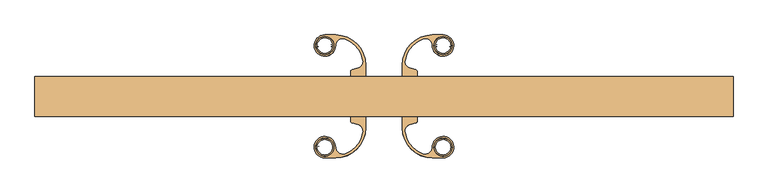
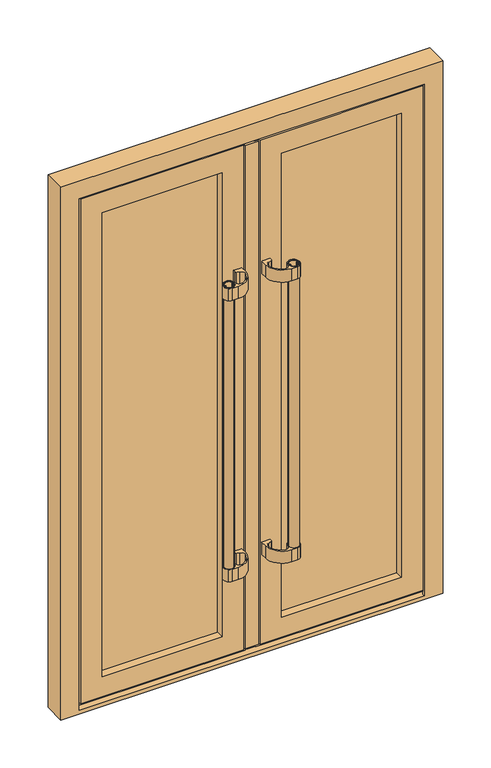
"""IFC4 building model written with IfcOpenShell, lengths in millimetres: door geometry, Dvokrilna vrata_ : Dvokrilna vrata_."""

from ifc_helpers import new_model, si_unit, point, frame, frame_2d, origin, place, context, project, spatial, polyline, circle_curve, trimmed, segment, composite_curve, outline, extrude, faceted_brep, source, transform, mapped, element, save
from ifc_brep_helpers import plane_surface, cylinder_surface, advanced_brep


def door_72d245ee(model_context):
    return source(origin(), model_context, "Body", "SolidModel", [
        extrude(outline(composite_curve([segment(trimmed(circle_curve(frame_2d((-125.3433953, -90.4505492)), 19.0), [point((-106.3433953, -90.4505492))], [point((-144.3433953, -90.4505492))], False, "CARTESIAN"), True, "CONTINUOUS"), segment(trimmed(circle_curve(frame_2d((-125.3433953, -90.4505492)), 19.0), [point((-144.3433953, -90.4505492))], [point((-106.3433953, -90.4505492))], False, "CARTESIAN"), True, "CONTINUOUS")], self_intersect=False), holes=[composite_curve([segment(trimmed(circle_curve(frame_2d((-110.8833953, -90.4505492)), 1.55), [point((-111.9794108, -91.5465647))], [point((-111.9794108, -89.3545337))], True, "CARTESIAN"), True, "CONTINUOUS"), segment(polyline([(-111.9794108, -89.3545337), (-113.126012, -89.3545337), (-113.126012, -88.3833845)]), True, "CONTINUOUS"), segment(trimmed(circle_curve(frame_2d((-110.8833953, -90.4505492)), 3.05), [point((-113.126012, -88.3833845))], [point((-110.8833953, -87.4005492))], False, "CARTESIAN"), True, "CONTINUOUS"), segment(polyline([(-110.8833953, -87.4005492), (-109.6367884, -87.4005492)]), True, "CONTINUOUS"), segment(trimmed(circle_curve(frame_2d((-125.3433953, -90.4505492)), 16.0), [point((-109.6367884, -87.4005492))], [point((-141.0500021, -87.4005492))], True, "CARTESIAN"), True, "CONTINUOUS"), segment(polyline([(-141.0500021, -87.4005492), (-139.8433953, -87.4005492)]), True, "CONTINUOUS"), segment(trimmed(circle_curve(frame_2d((-139.8433953, -90.4505492)), 3.05), [point((-139.8433953, -87.4005492))], [point((-137.6007785, -88.3833845))], False, "CARTESIAN"), True, "CONTINUOUS"), segment(polyline([(-137.6007785, -88.3833845), (-137.6007785, -89.3545337), (-138.7473797, -89.3545337)]), True, "CONTINUOUS"), segment(trimmed(circle_curve(frame_2d((-139.8433953, -90.4505492)), 1.55), [point((-138.7473797, -89.3545337))], [point((-138.7473797, -91.5465647))], True, "CARTESIAN"), True, "CONTINUOUS"), segment(polyline([(-138.7473797, -91.5465647), (-137.6007785, -91.5465647), (-137.6007785, -92.517714)]), True, "CONTINUOUS"), segment(trimmed(circle_curve(frame_2d((-139.8433953, -90.4505492)), 3.05), [point((-137.6007785, -92.517714))], [point((-139.8433953, -93.5005492))], False, "CARTESIAN"), True, "CONTINUOUS"), segment(polyline([(-139.8433953, -93.5005492), (-141.0500021, -93.5005492)]), True, "CONTINUOUS"), segment(trimmed(circle_curve(frame_2d((-125.3433953, -90.4505492)), 16.0), [point((-141.0500021, -93.5005492))], [point((-109.6367884, -93.5005492))], True, "CARTESIAN"), True, "CONTINUOUS"), segment(polyline([(-109.6367884, -93.5005492), (-110.8833953, -93.5005492)]), True, "CONTINUOUS"), segment(trimmed(circle_curve(frame_2d((-110.8833953, -90.4505492)), 3.05), [point((-110.8833953, -93.5005492))], [point((-113.126012, -92.517714))], False, "CARTESIAN"), True, "CONTINUOUS"), segment(polyline([(-113.126012, -92.517714), (-113.126012, -91.5465647), (-111.9794108, -91.5465647)]), True, "CONTINUOUS")], self_intersect=False)]), frame((0.0, 0.0, 415.6), z_axis=(0.0, 0.0, 1.0), x_axis=(1.0, 0.0, 0.0)), (0.0, 0.0, 1.0), 1200.0),
        extrude(outline(composite_curve([segment(polyline([(-43.7965181, -25.002787), (-38.7965181, -25.002787), (-38.7965181, -49.2005492)]), True, "CONTINUOUS"), segment(trimmed(circle_curve(frame_2d((-102.7937591, -49.2005492)), 63.997241), [point((-38.7965181, -49.2005492))], [point((-102.7937591, -113.1977902))], False, "CARTESIAN"), True, "CONTINUOUS"), segment(polyline([(-102.7937591, -113.1977902), (-125.697696, -113.1977902)]), True, "CONTINUOUS"), segment(trimmed(circle_curve(frame_2d((-125.2792508, -90.2582415)), 22.9433648), [point((-125.697696, -113.1977902))], [point((-138.7155097, -108.8556858))], False, "CARTESIAN"), True, "CONTINUOUS"), segment(trimmed(circle_curve(frame_2d((-125.4211325, -90.4546232)), 22.7010919), [point((-138.7155097, -108.8556858))], [point((-140.5661166, -73.5440044))], False, "CARTESIAN"), True, "CONTINUOUS"), segment(trimmed(circle_curve(frame_2d((-125.3383367, -90.5470715)), 22.8251959), [point((-140.5661166, -73.5440044))], [point((-111.9712808, -72.0454126))], False, "CARTESIAN"), True, "CONTINUOUS"), segment(trimmed(circle_curve(frame_2d((-125.2250279, -90.390238)), 22.631713), [point((-111.9712808, -72.0454126))], [point((-102.5933953, -90.4505492))], False, "CARTESIAN"), True, "CONTINUOUS"), segment(trimmed(circle_curve(frame_2d((-87.5934036, -90.4905228)), 15.0000449), [point((-102.5933953, -90.4505492))], [point((-82.4255414, -104.5722325))], True, "CARTESIAN"), True, "CONTINUOUS"), segment(trimmed(circle_curve(frame_2d((-102.7241808, -49.2612474)), 58.9180773), [point((-82.4255414, -104.5722325))], [point((-44.7286722, -59.6468531))], True, "CARTESIAN"), True, "CONTINUOUS"), segment(trimmed(circle_curve(frame_2d((-59.4435394, -56.7164654)), 15.0038159), [point((-44.7286722, -59.6468531))], [point((-55.5602662, -42.2238922))], True, "CARTESIAN"), True, "CONTINUOUS"), segment(polyline([(-55.5602662, -42.2238922), (-67.0906134, -39.134345)]), True, "CONTINUOUS"), segment(trimmed(circle_curve(frame_2d((-65.7965181, -34.3047158)), 5.0), [point((-67.0906134, -39.134345))], [point((-70.7965181, -34.3047158))], False, "CARTESIAN"), True, "CONTINUOUS"), segment(polyline([(-70.7965181, -34.3047158), (-70.7965181, -25.002787), (-43.7965181, -25.002787)]), True, "CONTINUOUS")], self_intersect=False), holes=[composite_curve([segment(trimmed(circle_curve(frame_2d((-125.3433953, -90.4505492)), 19.25), [point((-106.0933953, -90.4505492))], [point((-144.5933953, -90.4505492))], True, "CARTESIAN"), True, "CONTINUOUS"), segment(trimmed(circle_curve(frame_2d((-125.3433953, -90.4505492)), 19.25), [point((-144.5933953, -90.4505492))], [point((-106.0933953, -90.4505492))], True, "CARTESIAN"), True, "CONTINUOUS")], self_intersect=False)]), frame((0.0, 0.0, 1565.6), z_axis=(0.0, 0.0, 1.0), x_axis=(1.0, 0.0, 0.0)), (0.0, 0.0, 1.0), 50.0),
        extrude(outline(composite_curve([segment(polyline([(-43.7965181, -25.002787), (-38.7965181, -25.002787), (-38.7965181, -49.2005492)]), True, "CONTINUOUS"), segment(trimmed(circle_curve(frame_2d((-102.7937591, -49.2005492)), 63.997241), [point((-38.7965181, -49.2005492))], [point((-102.7937591, -113.1977902))], False, "CARTESIAN"), True, "CONTINUOUS"), segment(polyline([(-102.7937591, -113.1977902), (-125.697696, -113.1977902)]), True, "CONTINUOUS"), segment(trimmed(circle_curve(frame_2d((-125.2792508, -90.2582415)), 22.9433648), [point((-125.697696, -113.1977902))], [point((-138.7155097, -108.8556858))], False, "CARTESIAN"), True, "CONTINUOUS"), segment(trimmed(circle_curve(frame_2d((-125.4211325, -90.4546232)), 22.7010919), [point((-138.7155097, -108.8556858))], [point((-140.5661166, -73.5440044))], False, "CARTESIAN"), True, "CONTINUOUS"), segment(trimmed(circle_curve(frame_2d((-125.3383367, -90.5470715)), 22.8251959), [point((-140.5661166, -73.5440044))], [point((-111.9712808, -72.0454126))], False, "CARTESIAN"), True, "CONTINUOUS"), segment(trimmed(circle_curve(frame_2d((-125.2250279, -90.390238)), 22.631713), [point((-111.9712808, -72.0454126))], [point((-102.5933953, -90.4505492))], False, "CARTESIAN"), True, "CONTINUOUS"), segment(trimmed(circle_curve(frame_2d((-87.5934036, -90.4905228)), 15.0000449), [point((-102.5933953, -90.4505492))], [point((-82.4255414, -104.5722325))], True, "CARTESIAN"), True, "CONTINUOUS"), segment(trimmed(circle_curve(frame_2d((-102.7241808, -49.2612474)), 58.9180773), [point((-82.4255414, -104.5722325))], [point((-44.7286722, -59.6468531))], True, "CARTESIAN"), True, "CONTINUOUS"), segment(trimmed(circle_curve(frame_2d((-59.4435394, -56.7164654)), 15.0038159), [point((-44.7286722, -59.6468531))], [point((-55.5602662, -42.2238922))], True, "CARTESIAN"), True, "CONTINUOUS"), segment(polyline([(-55.5602662, -42.2238922), (-67.0906134, -39.134345)]), True, "CONTINUOUS"), segment(trimmed(circle_curve(frame_2d((-65.7965181, -34.3047158)), 5.0), [point((-67.0906134, -39.134345))], [point((-70.7965181, -34.3047158))], False, "CARTESIAN"), True, "CONTINUOUS"), segment(polyline([(-70.7965181, -34.3047158), (-70.7965181, -25.002787), (-43.7965181, -25.002787)]), True, "CONTINUOUS")], self_intersect=False), holes=[composite_curve([segment(trimmed(circle_curve(frame_2d((-125.3433953, -90.4505492)), 19.25), [point((-106.0933953, -90.4505492))], [point((-144.5933953, -90.4505492))], True, "CARTESIAN"), True, "CONTINUOUS"), segment(trimmed(circle_curve(frame_2d((-125.3433953, -90.4505492)), 19.25), [point((-144.5933953, -90.4505492))], [point((-106.0933953, -90.4505492))], True, "CARTESIAN"), True, "CONTINUOUS")], self_intersect=False)]), frame((0.0, 0.0, 415.6), z_axis=(0.0, 0.0, 1.0), x_axis=(1.0, 0.0, 0.0)), (0.0, 0.0, 1.0), 50.0),
        extrude(outline(composite_curve([segment(trimmed(circle_curve(frame_2d((-125.3433953, 125.4475384)), 19.0), [point((-106.3433953, 125.4475384))], [point((-144.3433953, 125.4475384))], False, "CARTESIAN"), True, "CONTINUOUS"), segment(trimmed(circle_curve(frame_2d((-125.3433953, 125.4475384)), 19.0), [point((-144.3433953, 125.4475384))], [point((-106.3433953, 125.4475384))], False, "CARTESIAN"), True, "CONTINUOUS")], self_intersect=False), holes=[composite_curve([segment(polyline([(-111.9794108, 126.5435539), (-113.126012, 126.5435539), (-113.126012, 127.5147031)]), True, "CONTINUOUS"), segment(trimmed(circle_curve(frame_2d((-110.8833953, 125.4475384)), 3.05), [point((-113.126012, 127.5147031))], [point((-110.8833953, 128.4975384))], False, "CARTESIAN"), True, "CONTINUOUS"), segment(polyline([(-110.8833953, 128.4975384), (-109.6367884, 128.4975384)]), True, "CONTINUOUS"), segment(trimmed(circle_curve(frame_2d((-125.3433953, 125.4475384)), 16.0), [point((-109.6367884, 128.4975384))], [point((-141.0500021, 128.4975384))], True, "CARTESIAN"), True, "CONTINUOUS"), segment(polyline([(-141.0500021, 128.4975384), (-139.8433953, 128.4975384)]), True, "CONTINUOUS"), segment(trimmed(circle_curve(frame_2d((-139.8433953, 125.4475384)), 3.05), [point((-139.8433953, 128.4975384))], [point((-137.6007785, 127.5147031))], False, "CARTESIAN"), True, "CONTINUOUS"), segment(polyline([(-137.6007785, 127.5147031), (-137.6007785, 126.5435539), (-138.7473797, 126.5435539)]), True, "CONTINUOUS"), segment(trimmed(circle_curve(frame_2d((-139.8433953, 125.4475384)), 1.55), [point((-138.7473797, 126.5435539))], [point((-138.7473797, 124.3515229))], True, "CARTESIAN"), True, "CONTINUOUS"), segment(polyline([(-138.7473797, 124.3515229), (-137.6007785, 124.3515229), (-137.6007785, 123.3803736)]), True, "CONTINUOUS"), segment(trimmed(circle_curve(frame_2d((-139.8433953, 125.4475384)), 3.05), [point((-137.6007785, 123.3803736))], [point((-139.8433953, 122.3975384))], False, "CARTESIAN"), True, "CONTINUOUS"), segment(polyline([(-139.8433953, 122.3975384), (-141.0500021, 122.3975384)]), True, "CONTINUOUS"), segment(trimmed(circle_curve(frame_2d((-125.3433953, 125.4475384)), 16.0), [point((-141.0500021, 122.3975384))], [point((-109.6367884, 122.3975384))], True, "CARTESIAN"), True, "CONTINUOUS"), segment(polyline([(-109.6367884, 122.3975384), (-110.8833953, 122.3975384)]), True, "CONTINUOUS"), segment(trimmed(circle_curve(frame_2d((-110.8833953, 125.4475384)), 3.05), [point((-110.8833953, 122.3975384))], [point((-113.126012, 123.3803736))], False, "CARTESIAN"), True, "CONTINUOUS"), segment(polyline([(-113.126012, 123.3803736), (-113.126012, 124.3515229), (-111.9794108, 124.3515229)]), True, "CONTINUOUS"), segment(trimmed(circle_curve(frame_2d((-110.8833953, 125.4475384)), 1.55), [point((-111.9794108, 124.3515229))], [point((-111.9794108, 126.5435539))], True, "CARTESIAN"), True, "CONTINUOUS")], self_intersect=False)]), frame((0.0, 0.0, 415.6), z_axis=(0.0, 0.0, 1.0), x_axis=(1.0, 0.0, 0.0)), (0.0, 0.0, 1.0), 1200.0),
        extrude(outline(composite_curve([segment(polyline([(-43.7965181, 59.9997761), (-70.7965181, 59.9997761), (-70.7965181, 69.301705)]), True, "CONTINUOUS"), segment(trimmed(circle_curve(frame_2d((-65.7965181, 69.301705)), 5.0), [point((-70.7965181, 69.301705))], [point((-67.0906134, 74.1313341))], False, "CARTESIAN"), True, "CONTINUOUS"), segment(polyline([(-67.0906134, 74.1313341), (-55.5602662, 77.2208813)]), True, "CONTINUOUS"), segment(trimmed(circle_curve(frame_2d((-59.4435394, 91.7134546)), 15.0038159), [point((-55.5602662, 77.2208813))], [point((-44.7286722, 94.6438423))], True, "CARTESIAN"), True, "CONTINUOUS"), segment(trimmed(circle_curve(frame_2d((-102.7241808, 84.2582366)), 58.9180773), [point((-44.7286722, 94.6438423))], [point((-82.4255414, 139.5692216))], True, "CARTESIAN"), True, "CONTINUOUS"), segment(trimmed(circle_curve(frame_2d((-87.5934036, 125.4875119)), 15.0000449), [point((-82.4255414, 139.5692216))], [point((-102.5933953, 125.4475384))], True, "CARTESIAN"), True, "CONTINUOUS"), segment(trimmed(circle_curve(frame_2d((-125.2250279, 125.3872272)), 22.631713), [point((-102.5933953, 125.4475384))], [point((-111.9712808, 107.0424017))], False, "CARTESIAN"), True, "CONTINUOUS"), segment(trimmed(circle_curve(frame_2d((-125.3383367, 125.5440606)), 22.8251959), [point((-111.9712808, 107.0424017))], [point((-140.5661166, 108.5409936))], False, "CARTESIAN"), True, "CONTINUOUS"), segment(trimmed(circle_curve(frame_2d((-125.4211325, 125.4516124)), 22.7010919), [point((-140.5661166, 108.5409936))], [point((-138.7155097, 143.852675))], False, "CARTESIAN"), True, "CONTINUOUS"), segment(trimmed(circle_curve(frame_2d((-125.2792508, 125.2552307)), 22.9433648), [point((-138.7155097, 143.852675))], [point((-125.697696, 148.1947793))], False, "CARTESIAN"), True, "CONTINUOUS"), segment(polyline([(-125.697696, 148.1947793), (-102.7937591, 148.1947793)]), True, "CONTINUOUS"), segment(trimmed(circle_curve(frame_2d((-102.7937591, 84.1975384)), 63.997241), [point((-102.7937591, 148.1947793))], [point((-38.7965181, 84.1975384))], False, "CARTESIAN"), True, "CONTINUOUS"), segment(polyline([(-38.7965181, 84.1975384), (-38.7965181, 59.9997761), (-43.7965181, 59.9997761)]), True, "CONTINUOUS")], self_intersect=False), holes=[composite_curve([segment(trimmed(circle_curve(frame_2d((-125.3433953, 125.4475384)), 19.25), [point((-106.0933953, 125.4475384))], [point((-144.5933953, 125.4475384))], True, "CARTESIAN"), True, "CONTINUOUS"), segment(trimmed(circle_curve(frame_2d((-125.3433953, 125.4475384)), 19.25), [point((-144.5933953, 125.4475384))], [point((-106.0933953, 125.4475384))], True, "CARTESIAN"), True, "CONTINUOUS")], self_intersect=False)]), frame((0.0, 0.0, 1565.6), z_axis=(0.0, 0.0, 1.0), x_axis=(1.0, 0.0, 0.0)), (0.0, 0.0, 1.0), 50.0),
        extrude(outline(composite_curve([segment(polyline([(-43.7965181, 59.9997761), (-70.7965181, 59.9997761), (-70.7965181, 69.301705)]), True, "CONTINUOUS"), segment(trimmed(circle_curve(frame_2d((-65.7965181, 69.301705)), 5.0), [point((-70.7965181, 69.301705))], [point((-67.0906134, 74.1313341))], False, "CARTESIAN"), True, "CONTINUOUS"), segment(polyline([(-67.0906134, 74.1313341), (-55.5602662, 77.2208813)]), True, "CONTINUOUS"), segment(trimmed(circle_curve(frame_2d((-59.4435394, 91.7134546)), 15.0038159), [point((-55.5602662, 77.2208813))], [point((-44.7286722, 94.6438423))], True, "CARTESIAN"), True, "CONTINUOUS"), segment(trimmed(circle_curve(frame_2d((-102.7241808, 84.2582366)), 58.9180773), [point((-44.7286722, 94.6438423))], [point((-82.4255414, 139.5692216))], True, "CARTESIAN"), True, "CONTINUOUS"), segment(trimmed(circle_curve(frame_2d((-87.5934036, 125.4875119)), 15.0000449), [point((-82.4255414, 139.5692216))], [point((-102.5933953, 125.4475384))], True, "CARTESIAN"), True, "CONTINUOUS"), segment(trimmed(circle_curve(frame_2d((-125.2250279, 125.3872272)), 22.631713), [point((-102.5933953, 125.4475384))], [point((-111.9712808, 107.0424017))], False, "CARTESIAN"), True, "CONTINUOUS"), segment(trimmed(circle_curve(frame_2d((-125.3383367, 125.5440606)), 22.8251959), [point((-111.9712808, 107.0424017))], [point((-140.5661166, 108.5409936))], False, "CARTESIAN"), True, "CONTINUOUS"), segment(trimmed(circle_curve(frame_2d((-125.4211325, 125.4516124)), 22.7010919), [point((-140.5661166, 108.5409936))], [point((-138.7155097, 143.852675))], False, "CARTESIAN"), True, "CONTINUOUS"), segment(trimmed(circle_curve(frame_2d((-125.2792508, 125.2552307)), 22.9433648), [point((-138.7155097, 143.852675))], [point((-125.697696, 148.1947793))], False, "CARTESIAN"), True, "CONTINUOUS"), segment(polyline([(-125.697696, 148.1947793), (-102.7937591, 148.1947793)]), True, "CONTINUOUS"), segment(trimmed(circle_curve(frame_2d((-102.7937591, 84.1975384)), 63.997241), [point((-102.7937591, 148.1947793))], [point((-38.7965181, 84.1975384))], False, "CARTESIAN"), True, "CONTINUOUS"), segment(polyline([(-38.7965181, 84.1975384), (-38.7965181, 59.9997761), (-43.7965181, 59.9997761)]), True, "CONTINUOUS")], self_intersect=False), holes=[composite_curve([segment(trimmed(circle_curve(frame_2d((-125.3433953, 125.4475384)), 19.25), [point((-106.0933953, 125.4475384))], [point((-144.5933953, 125.4475384))], True, "CARTESIAN"), True, "CONTINUOUS"), segment(trimmed(circle_curve(frame_2d((-125.3433953, 125.4475384)), 19.25), [point((-144.5933953, 125.4475384))], [point((-106.0933953, 125.4475384))], True, "CARTESIAN"), True, "CONTINUOUS")], self_intersect=False)]), frame((0.0, 0.0, 415.6), z_axis=(0.0, 0.0, 1.0), x_axis=(1.0, 0.0, 0.0)), (0.0, 0.0, 1.0), 50.0),
        extrude(outline(polyline([(-99.4896574, 6.5039517), (-595.0103426, 6.5039517), (-595.0103426, 50.5039517), (-99.4896574, 50.5039517), (-99.4896574, 6.5039517)])), frame((0.0, 0.0, 116.9896574), z_axis=(0.0, 0.0, 1.0), x_axis=(1.0, 0.0, 0.0)), (0.0, 0.0, 1.0), 1928.0206852),
        faceted_brep([(-114.4922423, 59.9997761, 2030.0077577), (-114.4922423, 59.9997761, 131.9922423), (-114.4922423, 50.5039517, 131.9922423), (-114.4922423, 50.5039517, 2030.0077577), (-2.4965181, 59.9997761, 2142.0034819), (-2.4965181, 59.9997761, 19.9965181), (-692.0034819, 59.9997761, 19.9965181), (-692.0034819, 59.9997761, 2142.0034819), (-580.0077577, 59.9997761, 2030.0077577), (-580.0077577, 59.9997761, 131.9922423), (-580.0077577, 50.5039517, 131.9922423), (-99.4896574, 50.5039517, 116.9896574), (-99.4896574, 50.5039517, 2045.0103426), (-595.0103426, 50.5039517, 2045.0103426), (-595.0103426, 50.5039517, 116.9896574), (-580.0077577, 50.5039517, 2030.0077577), (-99.4896574, 6.5039517, 2045.0103426), (-595.0103426, 6.5039517, 2045.0103426), (-99.4896574, 6.5039517, 116.9896574), (-595.0103426, 6.5039517, 116.9896574), (-114.4920713, 6.5039517, 131.9920713), (-114.4920713, 6.5039517, 2030.0079287), (-580.0079287, 6.5039517, 2030.0079287), (-580.0079287, 6.5039517, 131.9920713), (-114.4920713, -25.002787, 2030.0079287), (-580.0079287, -25.002787, 2030.0079287), (-114.4920713, -25.002787, 131.9920713), (-580.0079287, -25.002787, 131.9920713), (-31.4904907, -25.002787, 48.9904907), (-31.4904907, -25.002787, 2113.0095093), (-663.0095093, -25.002787, 2113.0095093), (-663.0095093, -25.002787, 48.9904907), (-31.4904907, -16.502703, 2113.0095093), (-31.4904907, -16.502703, 48.9904907), (-663.0095093, -16.502703, 48.9904907), (-674.406518, -16.502703, 37.593482), (-20.093482, -16.502703, 37.593482), (-20.093482, -16.502703, 52.4965181), (-26.4891157, -16.502703, 52.4965181), (-26.4891157, -16.502703, 2109.5034819), (-20.093482, -16.502703, 2109.5034819), (-20.093482, -16.502703, 2124.406518), (-674.406518, -16.502703, 2124.406518), (-663.0095093, -16.502703, 2113.0095093), (-20.093482, 51.4890131, 37.593482), (-20.093482, 51.4890131, 52.4965181), (-20.093482, 51.4890131, 2124.406518), (-20.093482, 51.4890131, 2109.5034819), (-674.406518, 51.4890131, 37.593482), (-674.406518, 51.4890131, 2124.406518), (-2.4965181, 51.4890131, 2109.5034819), (-2.4965181, 51.4890131, 2142.0034819), (-692.0034819, 51.4890131, 2142.0034819), (-692.0034819, 51.4890131, 19.9965181), (-2.4965181, 51.4890131, 19.9965181), (-2.4965181, 51.4890131, 52.4965181), (-26.4891157, -25.002787, 52.4965181), (12.9908884, 51.4919484, 52.4965181), (12.9908884, -16.4997677, 52.4965181), (26.5108846, -16.4997677, 52.4965181), (26.5108846, -25.002787, 52.4965181), (12.9908884, 51.4919484, 2109.5034819), (-26.4891157, -25.002787, 2109.5034819), (12.9908884, -16.4997677, 2109.5034819), (26.5108846, -16.4997677, 2109.5034819), (26.5108846, -25.002787, 2109.5034819)], [[[0, 1, 2, 3]], [[4, 5, 6, 7], [1, 0, 8, 9]], [[2, 1, 9, 10]], [[11, 12, 13, 14], [3, 2, 10, 15]], [[0, 3, 15, 8]], [[12, 16, 17, 13]], [[16, 12, 11, 18]], [[18, 11, 14, 19]], [[16, 18, 19, 17], [20, 21, 22, 23]], [[21, 24, 25, 22]], [[24, 21, 20, 26]], [[26, 20, 23, 27]], [[28, 29, 30, 31], [24, 26, 27, 25]], [[32, 29, 28, 33]], [[33, 28, 31, 34]], [[35, 36, 37, 38, 39, 40, 41, 42], [32, 33, 34, 43]], [[36, 44, 45, 37]], [[46, 41, 40, 47]], [[44, 36, 35, 48]], [[44, 48, 49, 46, 47, 50, 51, 52, 53, 54, 55, 45]], [[56, 38, 37, 45, 55, 57, 58, 59, 60]], [[4, 51, 50, 55, 54, 5]], [[61, 57, 55, 50]], [[5, 54, 53, 6]], [[10, 9, 8, 15]], [[19, 14, 13, 17]], [[27, 23, 22, 25]], [[34, 31, 30, 43]], [[48, 35, 42, 49]], [[6, 53, 52, 7]], [[62, 39, 38, 56]], [[61, 63, 58, 57]], [[63, 64, 59, 58]], [[64, 65, 60, 59]], [[65, 62, 56, 60]], [[29, 32, 43, 30]], [[41, 46, 49, 42]], [[51, 4, 7, 52]], [[62, 65, 64, 63, 61, 50, 47, 40, 39]]]),
        extrude(outline(composite_curve([segment(trimmed(circle_curve(frame_2d((125.1417143, -90.4505492)), 19.0), [point((106.1417143, -90.4505492))], [point((144.1417143, -90.4505492))], False, "CARTESIAN"), True, "CONTINUOUS"), segment(trimmed(circle_curve(frame_2d((125.1417143, -90.4505492)), 19.0), [point((144.1417143, -90.4505492))], [point((106.1417143, -90.4505492))], False, "CARTESIAN"), True, "CONTINUOUS")], self_intersect=False), holes=[composite_curve([segment(polyline([(111.7777298, -91.5465647), (112.924331, -91.5465647), (112.924331, -92.517714)]), True, "CONTINUOUS"), segment(trimmed(circle_curve(frame_2d((110.6817143, -90.4505492)), 3.05), [point((112.924331, -92.517714))], [point((110.6817143, -93.5005492))], False, "CARTESIAN"), True, "CONTINUOUS"), segment(polyline([(110.6817143, -93.5005492), (109.4351074, -93.5005492)]), True, "CONTINUOUS"), segment(trimmed(circle_curve(frame_2d((125.1417143, -90.4505492)), 16.0), [point((109.4351074, -93.5005492))], [point((140.8483211, -93.5005492))], True, "CARTESIAN"), True, "CONTINUOUS"), segment(polyline([(140.8483211, -93.5005492), (139.6417143, -93.5005492)]), True, "CONTINUOUS"), segment(trimmed(circle_curve(frame_2d((139.6417143, -90.4505492)), 3.05), [point((139.6417143, -93.5005492))], [point((137.3990975, -92.517714))], False, "CARTESIAN"), True, "CONTINUOUS"), segment(polyline([(137.3990975, -92.517714), (137.3990975, -91.5465647), (138.5456987, -91.5465647)]), True, "CONTINUOUS"), segment(trimmed(circle_curve(frame_2d((139.6417143, -90.4505492)), 1.55), [point((138.5456987, -91.5465647))], [point((138.5456987, -89.3545337))], True, "CARTESIAN"), True, "CONTINUOUS"), segment(polyline([(138.5456987, -89.3545337), (137.3990975, -89.3545337), (137.3990975, -88.3833845)]), True, "CONTINUOUS"), segment(trimmed(circle_curve(frame_2d((139.6417143, -90.4505492)), 3.05), [point((137.3990975, -88.3833845))], [point((139.6417143, -87.4005492))], False, "CARTESIAN"), True, "CONTINUOUS"), segment(polyline([(139.6417143, -87.4005492), (140.8483211, -87.4005492)]), True, "CONTINUOUS"), segment(trimmed(circle_curve(frame_2d((125.1417143, -90.4505492)), 16.0), [point((140.8483211, -87.4005492))], [point((109.4351074, -87.4005492))], True, "CARTESIAN"), True, "CONTINUOUS"), segment(polyline([(109.4351074, -87.4005492), (110.6817143, -87.4005492)]), True, "CONTINUOUS"), segment(trimmed(circle_curve(frame_2d((110.6817143, -90.4505492)), 3.05), [point((110.6817143, -87.4005492))], [point((112.924331, -88.3833845))], False, "CARTESIAN"), True, "CONTINUOUS"), segment(polyline([(112.924331, -88.3833845), (112.924331, -89.3545337), (111.7777298, -89.3545337)]), True, "CONTINUOUS"), segment(trimmed(circle_curve(frame_2d((110.6817143, -90.4505492)), 1.55), [point((111.7777298, -89.3545337))], [point((111.7777298, -91.5465647))], True, "CARTESIAN"), True, "CONTINUOUS")], self_intersect=False)]), frame((0.0, 0.0, 415.6), z_axis=(0.0, 0.0, 1.0), x_axis=(1.0, 0.0, 0.0)), (0.0, 0.0, 1.0), 1200.0),
        extrude(outline(composite_curve([segment(polyline([(43.5948371, -25.002787), (70.5948371, -25.002787), (70.5948371, -34.3047158)]), True, "CONTINUOUS"), segment(trimmed(circle_curve(frame_2d((65.5948371, -34.3047158)), 5.0), [point((70.5948371, -34.3047158))], [point((66.8889324, -39.134345))], False, "CARTESIAN"), True, "CONTINUOUS"), segment(polyline([(66.8889324, -39.134345), (55.3585852, -42.2238922)]), True, "CONTINUOUS"), segment(trimmed(circle_curve(frame_2d((59.2418584, -56.7164654)), 15.0038159), [point((55.3585852, -42.2238922))], [point((44.5269912, -59.6468531))], True, "CARTESIAN"), True, "CONTINUOUS"), segment(trimmed(circle_curve(frame_2d((102.5224998, -49.2612474)), 58.9180773), [point((44.5269912, -59.6468531))], [point((82.2238604, -104.5722325))], True, "CARTESIAN"), True, "CONTINUOUS"), segment(trimmed(circle_curve(frame_2d((87.3917226, -90.4905228)), 15.0000449), [point((82.2238604, -104.5722325))], [point((102.3917143, -90.4505492))], True, "CARTESIAN"), True, "CONTINUOUS"), segment(trimmed(circle_curve(frame_2d((125.0233469, -90.390238)), 22.631713), [point((102.3917143, -90.4505492))], [point((111.7695998, -72.0454126))], False, "CARTESIAN"), True, "CONTINUOUS"), segment(trimmed(circle_curve(frame_2d((125.1366557, -90.5470715)), 22.8251959), [point((111.7695998, -72.0454126))], [point((140.3644356, -73.5440044))], False, "CARTESIAN"), True, "CONTINUOUS"), segment(trimmed(circle_curve(frame_2d((125.2194515, -90.4546232)), 22.7010919), [point((140.3644356, -73.5440044))], [point((138.5138287, -108.8556858))], False, "CARTESIAN"), True, "CONTINUOUS"), segment(trimmed(circle_curve(frame_2d((125.0775698, -90.2582415)), 22.9433648), [point((138.5138287, -108.8556858))], [point((125.496015, -113.1977902))], False, "CARTESIAN"), True, "CONTINUOUS"), segment(polyline([(125.496015, -113.1977902), (102.5920781, -113.1977902)]), True, "CONTINUOUS"), segment(trimmed(circle_curve(frame_2d((102.5920781, -49.2005492)), 63.997241), [point((102.5920781, -113.1977902))], [point((38.5948371, -49.2005492))], False, "CARTESIAN"), True, "CONTINUOUS"), segment(polyline([(38.5948371, -49.2005492), (38.5948371, -25.002787), (43.5948371, -25.002787)]), True, "CONTINUOUS")], self_intersect=False), holes=[composite_curve([segment(trimmed(circle_curve(frame_2d((125.1417143, -90.4505492)), 19.25), [point((105.8917143, -90.4505492))], [point((144.3917143, -90.4505492))], True, "CARTESIAN"), True, "CONTINUOUS"), segment(trimmed(circle_curve(frame_2d((125.1417143, -90.4505492)), 19.25), [point((144.3917143, -90.4505492))], [point((105.8917143, -90.4505492))], True, "CARTESIAN"), True, "CONTINUOUS")], self_intersect=False)]), frame((0.0, 0.0, 1565.6), z_axis=(0.0, 0.0, 1.0), x_axis=(1.0, 0.0, 0.0)), (0.0, 0.0, 1.0), 50.0),
        extrude(outline(composite_curve([segment(polyline([(43.5948371, -25.002787), (70.5948371, -25.002787), (70.5948371, -34.3047158)]), True, "CONTINUOUS"), segment(trimmed(circle_curve(frame_2d((65.5948371, -34.3047158)), 5.0), [point((70.5948371, -34.3047158))], [point((66.8889324, -39.134345))], False, "CARTESIAN"), True, "CONTINUOUS"), segment(polyline([(66.8889324, -39.134345), (55.3585852, -42.2238922)]), True, "CONTINUOUS"), segment(trimmed(circle_curve(frame_2d((59.2418584, -56.7164654)), 15.0038159), [point((55.3585852, -42.2238922))], [point((44.5269912, -59.6468531))], True, "CARTESIAN"), True, "CONTINUOUS"), segment(trimmed(circle_curve(frame_2d((102.5224998, -49.2612474)), 58.9180773), [point((44.5269912, -59.6468531))], [point((82.2238604, -104.5722325))], True, "CARTESIAN"), True, "CONTINUOUS"), segment(trimmed(circle_curve(frame_2d((87.3917226, -90.4905228)), 15.0000449), [point((82.2238604, -104.5722325))], [point((102.3917143, -90.4505492))], True, "CARTESIAN"), True, "CONTINUOUS"), segment(trimmed(circle_curve(frame_2d((125.0233469, -90.390238)), 22.631713), [point((102.3917143, -90.4505492))], [point((111.7695998, -72.0454126))], False, "CARTESIAN"), True, "CONTINUOUS"), segment(trimmed(circle_curve(frame_2d((125.1366557, -90.5470715)), 22.8251959), [point((111.7695998, -72.0454126))], [point((140.3644356, -73.5440044))], False, "CARTESIAN"), True, "CONTINUOUS"), segment(trimmed(circle_curve(frame_2d((125.2194515, -90.4546232)), 22.7010919), [point((140.3644356, -73.5440044))], [point((138.5138287, -108.8556858))], False, "CARTESIAN"), True, "CONTINUOUS"), segment(trimmed(circle_curve(frame_2d((125.0775698, -90.2582415)), 22.9433648), [point((138.5138287, -108.8556858))], [point((125.496015, -113.1977902))], False, "CARTESIAN"), True, "CONTINUOUS"), segment(polyline([(125.496015, -113.1977902), (102.5920781, -113.1977902)]), True, "CONTINUOUS"), segment(trimmed(circle_curve(frame_2d((102.5920781, -49.2005492)), 63.997241), [point((102.5920781, -113.1977902))], [point((38.5948371, -49.2005492))], False, "CARTESIAN"), True, "CONTINUOUS"), segment(polyline([(38.5948371, -49.2005492), (38.5948371, -25.002787), (43.5948371, -25.002787)]), True, "CONTINUOUS")], self_intersect=False), holes=[composite_curve([segment(trimmed(circle_curve(frame_2d((125.1417143, -90.4505492)), 19.25), [point((105.8917143, -90.4505492))], [point((144.3917143, -90.4505492))], True, "CARTESIAN"), True, "CONTINUOUS"), segment(trimmed(circle_curve(frame_2d((125.1417143, -90.4505492)), 19.25), [point((144.3917143, -90.4505492))], [point((105.8917143, -90.4505492))], True, "CARTESIAN"), True, "CONTINUOUS")], self_intersect=False)]), frame((0.0, 0.0, 415.6), z_axis=(0.0, 0.0, 1.0), x_axis=(1.0, 0.0, 0.0)), (0.0, 0.0, 1.0), 50.0),
        extrude(outline(composite_curve([segment(trimmed(circle_curve(frame_2d((125.1417143, 125.4475384)), 19.0), [point((106.1417143, 125.4475384))], [point((144.1417143, 125.4475384))], False, "CARTESIAN"), True, "CONTINUOUS"), segment(trimmed(circle_curve(frame_2d((125.1417143, 125.4475384)), 19.0), [point((144.1417143, 125.4475384))], [point((106.1417143, 125.4475384))], False, "CARTESIAN"), True, "CONTINUOUS")], self_intersect=False), holes=[composite_curve([segment(trimmed(circle_curve(frame_2d((110.6817143, 125.4475384)), 1.55), [point((111.7777298, 126.5435539))], [point((111.7777298, 124.3515229))], True, "CARTESIAN"), True, "CONTINUOUS"), segment(polyline([(111.7777298, 124.3515229), (112.924331, 124.3515229), (112.924331, 123.3803736)]), True, "CONTINUOUS"), segment(trimmed(circle_curve(frame_2d((110.6817143, 125.4475384)), 3.05), [point((112.924331, 123.3803736))], [point((110.6817143, 122.3975384))], False, "CARTESIAN"), True, "CONTINUOUS"), segment(polyline([(110.6817143, 122.3975384), (109.4351074, 122.3975384)]), True, "CONTINUOUS"), segment(trimmed(circle_curve(frame_2d((125.1417143, 125.4475384)), 16.0), [point((109.4351074, 122.3975384))], [point((140.8483211, 122.3975384))], True, "CARTESIAN"), True, "CONTINUOUS"), segment(polyline([(140.8483211, 122.3975384), (139.6417143, 122.3975384)]), True, "CONTINUOUS"), segment(trimmed(circle_curve(frame_2d((139.6417143, 125.4475384)), 3.05), [point((139.6417143, 122.3975384))], [point((137.3990975, 123.3803736))], False, "CARTESIAN"), True, "CONTINUOUS"), segment(polyline([(137.3990975, 123.3803736), (137.3990975, 124.3515229), (138.5456987, 124.3515229)]), True, "CONTINUOUS"), segment(trimmed(circle_curve(frame_2d((139.6417143, 125.4475384)), 1.55), [point((138.5456987, 124.3515229))], [point((138.5456987, 126.5435539))], True, "CARTESIAN"), True, "CONTINUOUS"), segment(polyline([(138.5456987, 126.5435539), (137.3990975, 126.5435539), (137.3990975, 127.5147031)]), True, "CONTINUOUS"), segment(trimmed(circle_curve(frame_2d((139.6417143, 125.4475384)), 3.05), [point((137.3990975, 127.5147031))], [point((139.6417143, 128.4975384))], False, "CARTESIAN"), True, "CONTINUOUS"), segment(polyline([(139.6417143, 128.4975384), (140.8483211, 128.4975384)]), True, "CONTINUOUS"), segment(trimmed(circle_curve(frame_2d((125.1417143, 125.4475384)), 16.0), [point((140.8483211, 128.4975384))], [point((109.4351074, 128.4975384))], True, "CARTESIAN"), True, "CONTINUOUS"), segment(polyline([(109.4351074, 128.4975384), (110.6817143, 128.4975384)]), True, "CONTINUOUS"), segment(trimmed(circle_curve(frame_2d((110.6817143, 125.4475384)), 3.05), [point((110.6817143, 128.4975384))], [point((112.924331, 127.5147031))], False, "CARTESIAN"), True, "CONTINUOUS"), segment(polyline([(112.924331, 127.5147031), (112.924331, 126.5435539), (111.7777298, 126.5435539)]), True, "CONTINUOUS")], self_intersect=False)]), frame((0.0, 0.0, 415.6), z_axis=(0.0, 0.0, 1.0), x_axis=(1.0, 0.0, 0.0)), (0.0, 0.0, 1.0), 1200.0),
        extrude(outline(composite_curve([segment(polyline([(43.5948371, 59.9997761), (38.5948371, 59.9997761), (38.5948371, 84.1975384)]), True, "CONTINUOUS"), segment(trimmed(circle_curve(frame_2d((102.5920781, 84.1975384)), 63.997241), [point((38.5948371, 84.1975384))], [point((102.5920781, 148.1947793))], False, "CARTESIAN"), True, "CONTINUOUS"), segment(polyline([(102.5920781, 148.1947793), (125.496015, 148.1947793)]), True, "CONTINUOUS"), segment(trimmed(circle_curve(frame_2d((125.0775698, 125.2552307)), 22.9433648), [point((125.496015, 148.1947793))], [point((138.5138287, 143.852675))], False, "CARTESIAN"), True, "CONTINUOUS"), segment(trimmed(circle_curve(frame_2d((125.2194515, 125.4516124)), 22.7010919), [point((138.5138287, 143.852675))], [point((140.3644356, 108.5409936))], False, "CARTESIAN"), True, "CONTINUOUS"), segment(trimmed(circle_curve(frame_2d((125.1366557, 125.5440606)), 22.8251959), [point((140.3644356, 108.5409936))], [point((111.7695998, 107.0424017))], False, "CARTESIAN"), True, "CONTINUOUS"), segment(trimmed(circle_curve(frame_2d((125.0233469, 125.3872272)), 22.631713), [point((111.7695998, 107.0424017))], [point((102.3917143, 125.4475384))], False, "CARTESIAN"), True, "CONTINUOUS"), segment(trimmed(circle_curve(frame_2d((87.3917226, 125.4875119)), 15.0000449), [point((102.3917143, 125.4475384))], [point((82.2238604, 139.5692216))], True, "CARTESIAN"), True, "CONTINUOUS"), segment(trimmed(circle_curve(frame_2d((102.5224998, 84.2582366)), 58.9180773), [point((82.2238604, 139.5692216))], [point((44.5269912, 94.6438423))], True, "CARTESIAN"), True, "CONTINUOUS"), segment(trimmed(circle_curve(frame_2d((59.2418584, 91.7134546)), 15.0038159), [point((44.5269912, 94.6438423))], [point((55.3585852, 77.2208813))], True, "CARTESIAN"), True, "CONTINUOUS"), segment(polyline([(55.3585852, 77.2208813), (66.8889324, 74.1313341)]), True, "CONTINUOUS"), segment(trimmed(circle_curve(frame_2d((65.5948371, 69.301705)), 5.0), [point((66.8889324, 74.1313341))], [point((70.5948371, 69.301705))], False, "CARTESIAN"), True, "CONTINUOUS"), segment(polyline([(70.5948371, 69.301705), (70.5948371, 59.9997761), (43.5948371, 59.9997761)]), True, "CONTINUOUS")], self_intersect=False), holes=[composite_curve([segment(trimmed(circle_curve(frame_2d((125.1417143, 125.4475384)), 19.25), [point((105.8917143, 125.4475384))], [point((144.3917143, 125.4475384))], True, "CARTESIAN"), True, "CONTINUOUS"), segment(trimmed(circle_curve(frame_2d((125.1417143, 125.4475384)), 19.25), [point((144.3917143, 125.4475384))], [point((105.8917143, 125.4475384))], True, "CARTESIAN"), True, "CONTINUOUS")], self_intersect=False)]), frame((0.0, 0.0, 1565.6), z_axis=(0.0, 0.0, 1.0), x_axis=(1.0, 0.0, 0.0)), (0.0, 0.0, 1.0), 50.0),
        extrude(outline(composite_curve([segment(polyline([(43.5948371, 59.9997761), (38.5948371, 59.9997761), (38.5948371, 84.1975384)]), True, "CONTINUOUS"), segment(trimmed(circle_curve(frame_2d((102.5920781, 84.1975384)), 63.997241), [point((38.5948371, 84.1975384))], [point((102.5920781, 148.1947793))], False, "CARTESIAN"), True, "CONTINUOUS"), segment(polyline([(102.5920781, 148.1947793), (125.496015, 148.1947793)]), True, "CONTINUOUS"), segment(trimmed(circle_curve(frame_2d((125.0775698, 125.2552307)), 22.9433648), [point((125.496015, 148.1947793))], [point((138.5138287, 143.852675))], False, "CARTESIAN"), True, "CONTINUOUS"), segment(trimmed(circle_curve(frame_2d((125.2194515, 125.4516124)), 22.7010919), [point((138.5138287, 143.852675))], [point((140.3644356, 108.5409936))], False, "CARTESIAN"), True, "CONTINUOUS"), segment(trimmed(circle_curve(frame_2d((125.1366557, 125.5440606)), 22.8251959), [point((140.3644356, 108.5409936))], [point((111.7695998, 107.0424017))], False, "CARTESIAN"), True, "CONTINUOUS"), segment(trimmed(circle_curve(frame_2d((125.0233469, 125.3872272)), 22.631713), [point((111.7695998, 107.0424017))], [point((102.3917143, 125.4475384))], False, "CARTESIAN"), True, "CONTINUOUS"), segment(trimmed(circle_curve(frame_2d((87.3917226, 125.4875119)), 15.0000449), [point((102.3917143, 125.4475384))], [point((82.2238604, 139.5692216))], True, "CARTESIAN"), True, "CONTINUOUS"), segment(trimmed(circle_curve(frame_2d((102.5224998, 84.2582366)), 58.9180773), [point((82.2238604, 139.5692216))], [point((44.5269912, 94.6438423))], True, "CARTESIAN"), True, "CONTINUOUS"), segment(trimmed(circle_curve(frame_2d((59.2418584, 91.7134546)), 15.0038159), [point((44.5269912, 94.6438423))], [point((55.3585852, 77.2208813))], True, "CARTESIAN"), True, "CONTINUOUS"), segment(polyline([(55.3585852, 77.2208813), (66.8889324, 74.1313341)]), True, "CONTINUOUS"), segment(trimmed(circle_curve(frame_2d((65.5948371, 69.301705)), 5.0), [point((66.8889324, 74.1313341))], [point((70.5948371, 69.301705))], False, "CARTESIAN"), True, "CONTINUOUS"), segment(polyline([(70.5948371, 69.301705), (70.5948371, 59.9997761), (43.5948371, 59.9997761)]), True, "CONTINUOUS")], self_intersect=False), holes=[composite_curve([segment(trimmed(circle_curve(frame_2d((125.1417143, 125.4475384)), 19.25), [point((105.8917143, 125.4475384))], [point((144.3917143, 125.4475384))], True, "CARTESIAN"), True, "CONTINUOUS"), segment(trimmed(circle_curve(frame_2d((125.1417143, 125.4475384)), 19.25), [point((144.3917143, 125.4475384))], [point((105.8917143, 125.4475384))], True, "CARTESIAN"), True, "CONTINUOUS")], self_intersect=False)]), frame((0.0, 0.0, 415.6), z_axis=(0.0, 0.0, 1.0), x_axis=(1.0, 0.0, 0.0)), (0.0, 0.0, 1.0), 50.0),
        extrude(outline(polyline([(99.4896574, 50.5039517), (595.0103426, 50.5039517), (595.0103426, 6.5039517), (99.4896574, 6.5039517), (99.4896574, 50.5039517)])), frame((0.0, 0.0, 116.9896574), z_axis=(0.0, 0.0, 1.0), x_axis=(1.0, 0.0, 0.0)), (0.0, 0.0, 1.0), 1928.0206852),
        faceted_brep([(580.0077577, 59.9997761, 2030.0077577), (580.0077577, 59.9997761, 131.9922423), (580.0077577, 50.5039517, 131.9922423), (580.0077577, 50.5039517, 2030.0077577), (692.0034819, 59.9997761, 19.9965181), (2.4965181, 59.9997761, 19.9965181), (2.4965181, 59.9997761, 2142.0034819), (692.0034819, 59.9997761, 2142.0034819), (114.4922423, 59.9997761, 2030.0077577), (114.4922423, 59.9997761, 131.9922423), (114.4922423, 50.5039517, 131.9922423), (595.0103426, 50.5039517, 2045.0103426), (99.4896574, 50.5039517, 2045.0103426), (99.4896574, 50.5039517, 116.9896574), (595.0103426, 50.5039517, 116.9896574), (114.4922423, 50.5039517, 2030.0077577), (595.0103426, 6.5039517, 2045.0103426), (595.0103426, 6.5039517, 116.9896574), (99.4896574, 6.5039517, 116.9896574), (99.4896574, 6.5039517, 2045.0103426), (580.0079287, 6.5039517, 2030.0079287), (114.4920713, 6.5039517, 2030.0079287), (114.4920713, 6.5039517, 131.9920713), (580.0079287, 6.5039517, 131.9920713), (580.0079287, -25.002787, 2030.0079287), (580.0079287, -25.002787, 131.9920713), (114.4920713, -25.002787, 131.9920713), (663.0095093, -25.002787, 2113.0095093), (31.4904907, -25.002787, 2113.0095093), (31.4904907, -25.002787, 48.9904907), (663.0095093, -25.002787, 48.9904907), (114.4920713, -25.002787, 2030.0079287), (663.0095093, -16.502703, 2113.0095093), (663.0095093, -16.502703, 48.9904907), (31.4904907, -16.502703, 48.9904907), (674.406518, -16.502703, 2124.406518), (20.093482, -16.502703, 2124.406518), (20.093482, -16.502703, 37.593482), (674.406518, -16.502703, 37.593482), (31.4904907, -16.502703, 2113.0095093), (674.406518, 51.4890131, 2124.406518), (674.406518, 51.4890131, 37.593482), (20.093482, 51.4890131, 37.593482), (692.0034819, 51.4890131, 2142.0034819), (2.4965181, 51.4890131, 2142.0034819), (2.4965181, 51.4890131, 19.9965181), (692.0034819, 51.4890131, 19.9965181), (20.093482, 51.4890131, 2124.406518)], [[[0, 1, 2, 3]], [[4, 5, 6, 7], [0, 8, 9, 1]], [[2, 1, 9, 10]], [[11, 12, 13, 14], [2, 10, 15, 3]], [[16, 11, 14, 17]], [[17, 14, 13, 18]], [[17, 18, 19, 16], [20, 21, 22, 23]], [[24, 20, 23, 25]], [[25, 23, 22, 26]], [[27, 28, 29, 30], [25, 26, 31, 24]], [[32, 27, 30, 33]], [[33, 30, 29, 34]], [[35, 36, 37, 38], [33, 34, 39, 32]], [[40, 35, 38, 41]], [[41, 38, 37, 42]], [[43, 44, 45, 46], [41, 42, 47, 40]], [[7, 43, 46, 4]], [[4, 46, 45, 5]], [[10, 9, 8, 15]], [[18, 13, 12, 19]], [[26, 22, 21, 31]], [[34, 29, 28, 39]], [[42, 37, 36, 47]], [[5, 45, 44, 6]], [[15, 8, 0, 3]], [[19, 12, 11, 16]], [[31, 21, 20, 24]], [[39, 28, 27, 32]], [[47, 36, 35, 40]], [[6, 44, 43, 7]]]),
        advanced_brep(
        [(-740.0, 59.9997761, 10.0), (-697.0034819, 59.9997761, 10.0), (-697.0034819, 51.495562, 10.0), (697.0034819, 51.495562, 10.0), (697.0034819, 59.9997761, 10.0), (740.0, 59.9997761, 10.0), (740.0, -25.0, 10.0), (-740.0, -25.0, 10.0), (-740.0, 59.9997761, 2190.0), (740.0, 59.9997761, 2190.0), (697.0034819, 59.9997761, 2147.0034819), (-697.0034819, 59.9997761, 2147.0034819), (-697.0034819, 51.495562, 2147.0034819), (697.0034819, 51.495562, 2147.0034819), (-681.5093839, 51.495562, 2131.5093839), (-681.5093839, 51.495562, 25.5020089), (681.5093839, 51.495562, 25.5020089), (681.5093839, 51.495562, 2131.5093839), (740.0, -25.0, 2190.0), (-740.0, -25.0, 2190.0), (668.009384, -25.0, 2118.009384), (668.009384, -25.0, 25.5020089), (-668.009384, -25.0, 25.5020089), (-668.009384, -25.0, 2118.009384), (668.009384, -16.4961541, 2118.009384), (668.009384, -16.4961541, 25.5020089), (681.5093839, -16.4961541, 25.5020089), (681.5093839, 2.5534255, 25.5020089), (-681.5093839, 2.5534255, 25.5020089), (-681.5093839, -16.4961541, 25.5020089), (-668.009384, -16.4961541, 25.5020089), (-668.009384, -16.4961541, 2118.009384), (-681.5093839, -16.4961541, 2131.5093839), (-681.5093839, 12.6811663, 29.5820648), (-681.5093839, 23.2837038, 29.7334181), (-681.5093839, 34.7185189, 25.5020089), (681.5093839, 34.7185189, 25.5020089), (681.5093839, -16.4961541, 2131.5093839), (681.5093839, 23.2837038, 29.7334181), (681.5093839, 12.6811663, 29.5820648)],
        [
            (0, 1),
            (1, 2),
            (2, 3),
            (3, 4),
            (4, 5),
            (5, 6),
            (6, 7),
            (7, 0),
            (0, 8),
            (8, 9),
            (9, 5),
            (4, 10),
            (10, 11),
            (11, 1),
            (12, 2),
            (11, 12),
            (12, 13),
            (13, 3),
            (14, 15),
            (15, 16),
            (16, 17),
            (17, 14),
            (13, 10),
            (18, 6),
            (9, 18),
            (18, 19),
            (19, 7),
            (20, 21),
            (21, 22),
            (22, 23),
            (23, 20),
            (19, 8),
            (20, 24),
            (24, 25),
            (25, 21),
            (25, 26),
            (26, 27),
            (27, 28),
            (28, 29),
            (29, 30),
            (30, 22),
            (31, 23),
            (30, 31),
            (14, 32),
            (32, 29),
            (28, 33),
            (33, 34, circle_curve(frame((-681.5093839, 18.1783048, 15.936763), z_axis=(-1.0, 0.0, 0.0), x_axis=(0.0, -0.3736760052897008, 0.9275592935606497)), 14.7109752)),
            (34, 35),
            (35, 15),
            (35, 36),
            (36, 16),
            (37, 17),
            (36, 38),
            (38, 39, circle_curve(frame((681.5093839, 18.1783048, 15.936763), z_axis=(1.0, 0.0, 0.0), x_axis=(0.0, -0.3736760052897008, 0.9275592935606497)), 14.7109752)),
            (39, 27),
            (26, 37),
            (32, 37),
            (24, 31),
            (39, 33),
            (38, 34),
        ],
        [
            plane_surface(frame((-740.0, -25.0, 10.0), z_axis=(0.0, 0.0, -1.0), x_axis=(0.0, -1.0, 0.0))),
            plane_surface(frame((-740.0, 59.9997761, 10.0), z_axis=(0.0, 1.0, 0.0), x_axis=(0.0, 0.0, 1.0))),
            plane_surface(frame((-697.0034819, 59.9997761, 10.0), z_axis=(1.0, 0.0, 0.0), x_axis=(0.0, 0.0, 1.0))),
            plane_surface(frame((-697.0034819, 51.495562, 10.0), z_axis=(0.0, 1.0, 0.0), x_axis=(0.0, 0.0, 1.0))),
            plane_surface(frame((697.0034819, 59.9997761, 2147.0034819), z_axis=(-1.0, 0.0, 0.0), x_axis=(0.0, 0.0, -1.0))),
            plane_surface(frame((740.0, -25.0, 2190.0), z_axis=(1.0, 0.0, 0.0), x_axis=(0.0, 0.0, -1.0))),
            plane_surface(frame((-668.009384, -25.0, 10.0), z_axis=(0.0, -1.0, 0.0), x_axis=(0.0, 0.0, 1.0))),
            plane_surface(frame((-740.0, -25.0, 10.0), z_axis=(-1.0, 0.0, 0.0), x_axis=(0.0, 0.0, 1.0))),
            plane_surface(frame((668.009384, -16.4961541, 2118.009384), z_axis=(-1.0, 0.0, 0.0), x_axis=(0.0, 0.0, -1.0))),
            plane_surface(frame((-740.0, -25.0, 25.5020089), z_axis=(0.0, 0.0, 1.0), x_axis=(1.0, 0.0, 0.0))),
            plane_surface(frame((-668.009384, -16.4961541, 10.0), z_axis=(1.0, 0.0, 0.0), x_axis=(0.0, 0.0, 1.0))),
            plane_surface(frame((-681.5093839, -15.4000275, 10.0), z_axis=(1.0, 0.0, 0.0), x_axis=(0.0, 0.0, 1.0))),
            plane_surface(frame((-740.0, 34.7185189, 25.5020089), z_axis=(0.0, 0.0, 1.0), x_axis=(1.0, 0.0, 0.0))),
            plane_surface(frame((681.5093839, -15.4000275, 2131.5093839), z_axis=(-1.0, 0.0, 0.0), x_axis=(0.0, 0.0, -1.0))),
            plane_surface(frame((-681.5093839, -16.4961541, 10.0), z_axis=(0.0, 1.0, 0.0), x_axis=(0.0, 0.0, 1.0))),
            plane_surface(frame((-740.0, 2.5534255, 25.5020089), z_axis=(0.0, -0.3736760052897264, 0.9275592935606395), x_axis=(1.0, 0.0, 0.0))),
            cylinder_surface(frame((-740.0, 18.1783048, 15.936763), z_axis=(-1.0, 0.0, 0.0), x_axis=(0.0, -0.3736760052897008, 0.9275592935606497)), 14.7109752),
            plane_surface(frame((-740.0, 23.2837038, 29.7334181), z_axis=(0.0, 0.347046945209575, 0.9378477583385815), x_axis=(1.0, 0.0, 0.0))),
            plane_surface(frame((-740.0, -25.0, 2190.0), z_axis=(0.0, 0.0, 1.0), x_axis=(1.0, 0.0, 0.0))),
            plane_surface(frame((-697.0034819, 59.9997761, 2147.0034819), z_axis=(0.0, 0.0, -1.0), x_axis=(1.0, 0.0, 0.0))),
            plane_surface(frame((-681.5093839, -15.4000275, 2131.5093839), z_axis=(0.0, 0.0, -1.0), x_axis=(1.0, 0.0, 0.0))),
            plane_surface(frame((-668.009384, -16.4961541, 2118.009384), z_axis=(0.0, 0.0, -1.0), x_axis=(1.0, 0.0, 0.0))),
        ],
        [
            (0, [[1, 2, 3, 4, 5, 6, 7, 8]]),
            (1, [[-1, 9, 10, 11, -5, 12, 13, 14]]),
            (2, [[15, -2, -14, 16]]),
            (3, [[-3, -15, 17, 18], [19, 20, 21, 22]]),
            (4, [[-12, -4, -18, 23]]),
            (5, [[24, -6, -11, 25]]),
            (6, [[-7, -24, 26, 27], [28, 29, 30, 31]]),
            (7, [[-27, 32, -9, -8]]),
            (8, [[33, 34, 35, -28]]),
            (9, [[-29, -35, 36, 37, 38, 39, 40, 41]]),
            (10, [[42, -30, -41, 43]]),
            (11, [[44, 45, -39, 46, 47, 48, 49, -19]]),
            (12, [[-20, -49, 50, 51]]),
            (13, [[52, -21, -51, 53, 54, 55, -37, 56]]),
            (14, [[57, -56, -36, -34, 58, -43, -40, -45]]),
            (15, [[-38, -55, 59, -46]]),
            (16, [[60, -47, -59, -54]]),
            (17, [[-60, -53, -50, -48]]),
            (18, [[-26, -25, -10, -32]]),
            (19, [[-13, -23, -17, -16]]),
            (20, [[-22, -52, -57, -44]]),
            (21, [[-31, -42, -58, -33]]),
        ],
    ),
    ])


if __name__ == "__main__":
    model = new_model("IFC4")
    model_context = context("Model", 3, world=origin())
    ifc_project = project(units=[si_unit("LENGTHUNIT", "METRE", prefix="MILLI")], contexts=[model_context])
    site = spatial("IfcSite", under=ifc_project)
    building = spatial("IfcBuilding", under=site)
    placement = place(None, origin())
    door_shape = door_72d245ee(model_context)
    element("IfcDoor", 1, ObjectType="Dvokrilna vrata_ : Dvokrilna vrata_", at=placement, inside=building, context=model_context, shape_type="MappedRepresentation", body=[
        mapped(door_shape, transform((0.0, 0.0, 0.0), x_axis=(1.0, 0.0, 0.0), y_axis=(0.0, 1.0, 0.0), z_axis=(0.0, 0.0, 1.0))),
    ])
    save(model, "model.ifc")
